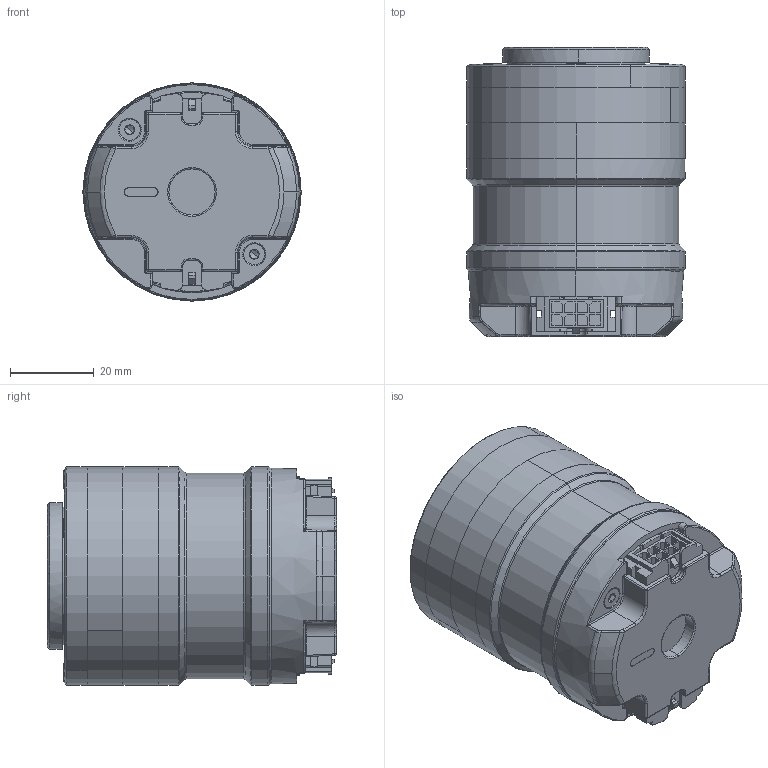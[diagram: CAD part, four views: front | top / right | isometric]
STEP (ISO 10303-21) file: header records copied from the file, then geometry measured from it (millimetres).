
FILE_DESCRIPTION (( 'STEP AP214' ), '1' );
FILE_NAME ('QDD-NE30-36_v2_12.STEP', '2019-05-30T08:44:35', ( 'Microsoft' ), ( 'Microsoft' ), 'SwSTEP 2.0', 'SolidWorks 2018', '' );
FILE_SCHEMA (( 'AUTOMOTIVE_DESIGN' ));
Length unit declared in the file: millimetre
Products named in the file (1): QDD-NE30-36_v2_12
Bounding box: 52 x 68.9 x 52 mm (x, y, z)
Volume: 114762.2 mm3; surface area: 53715 mm2
Topology: 25 solids, 25 shells, 1689 faces, 4205 edges, 2605 vertices
Faces by surface type: plane 981, cylinder 358, cone 160, bspline 99, torus 86, sphere 5
Entity records: 73438 total; most frequent: CARTESIAN_POINT 15487, ORIENTED_EDGE 8340, DIRECTION 7622, EDGE_CURVE 4170, VECTOR 2788, LINE 2788, VERTEX_POINT 2605, AXIS2_PLACEMENT_3D 2417
